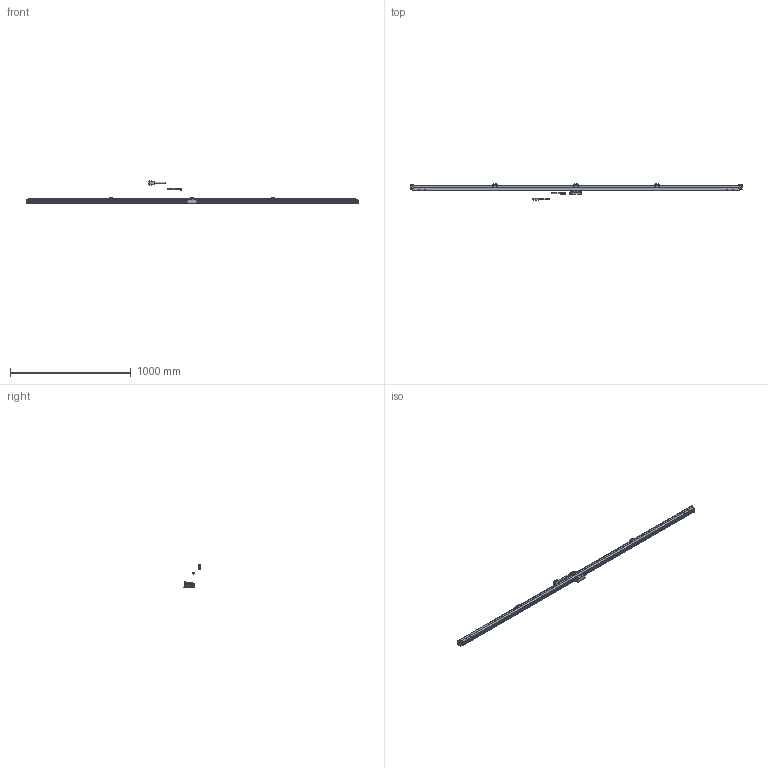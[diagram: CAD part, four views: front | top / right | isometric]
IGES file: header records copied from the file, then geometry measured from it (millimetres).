
Start section: Elysium IGES Interface
Global section: file name: 75H\\Utsu119s\kiyo_cad\data\3D\AT103\HP掲載用_201710\IGES\AT103_AT203-2500.igs; native system: Creo Elements/Direct Modeling 18.1B  29-Sep-2012; preprocessor: Creo Element/Direct IGES_3D V2.2; author: Unknown; organization: Unknown; date: 20180105.151758; units: millimetre
Bounding box: 2748 x 136.5 x 190.1 mm (x, y, z)
Volume: 8286612.4 mm3; surface area: 1069506.2 mm2
Topology: 5 solids, 9 shells, 2467 faces, 6412 edges, 3967 vertices
Faces by surface type: bspline 2467
